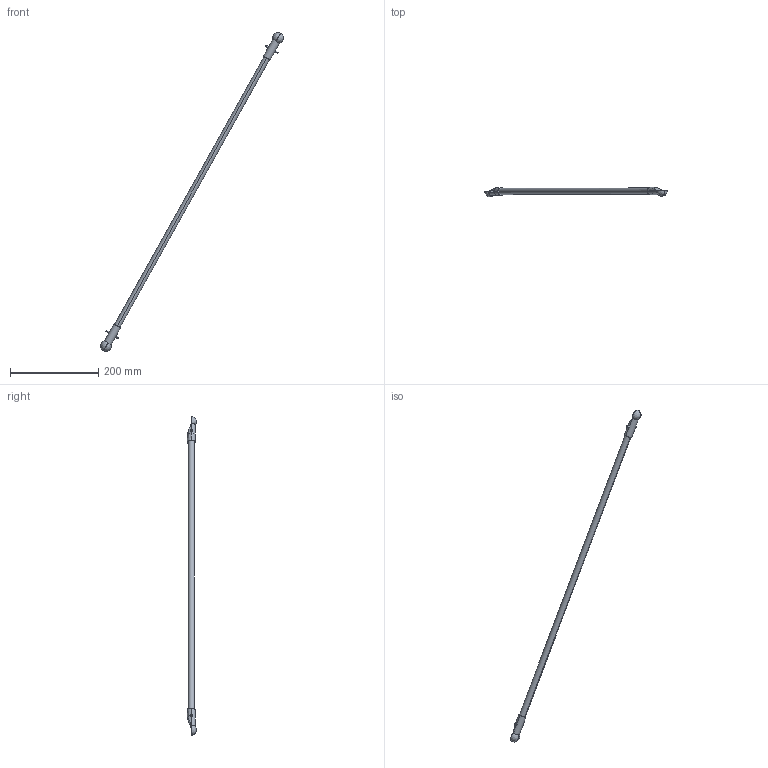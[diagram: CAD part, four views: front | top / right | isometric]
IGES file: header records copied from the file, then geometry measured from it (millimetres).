
Start section: SolidWorks IGES file using analytic representation for surfaces
Global section: file name: C:\Users\SELUHAA\Desktop\Work items\545792\IGES\IRB360_X-800-WD-4D_rev03_IGES_J\IRB360_X-800-WD-4D_rev03_LA1_1_CAD.IGS; native system: SolidWorks 2022; preprocessor: SolidWorks 2022; author: SELUHAA; date: 231128.134156; units: millimetre
Bounding box: 413.9 x 20.65 x 722.54 mm (x, y, z)
Surface area: 41260.7 mm2 (no closed solid volume)
Topology: 0 solids, 0 shells, 40 faces, 604 edges, 602 vertices
Faces by surface type: revolution 28, bspline 12
